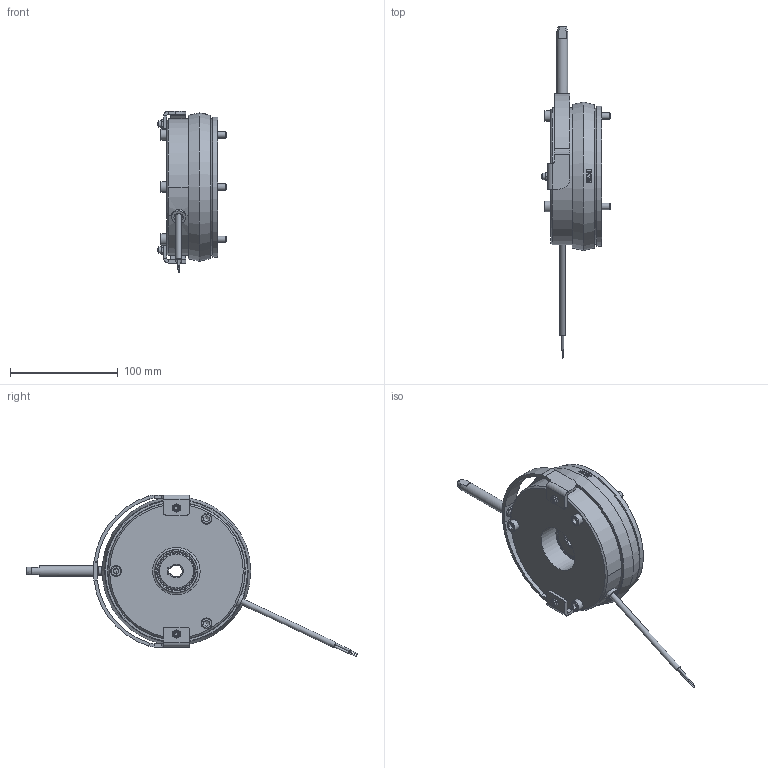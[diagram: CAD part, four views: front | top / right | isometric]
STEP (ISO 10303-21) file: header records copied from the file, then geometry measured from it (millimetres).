
FILE_DESCRIPTION(/* description */ (''),/* implementation_level */ '2;1');
FILE_NAME(/* name */ 'C:\SapWorkDir\Inventor\IP1\ConvertTempPath\5029487_IPT_000.ipt.stp',/* time_stamp */ '2021-04-21T08:01:32+02:00',/* author */ ('WOELK'),/* organization */ (''),/* preprocessor_version */ 'ST-DEVELOPER v17',/* originating_system */ 'Autodesk Inventor 2018',/* authorisation */ '');
FILE_SCHEMA (('AUTOMOTIVE_DESIGN { 1 0 10303 214 3 1 1 }'));
Products named in the file (1): 5029487
Bounding box: 63.15 x 307.93 x 150.18 mm (x, y, z)
Volume: 506984.5 mm3; surface area: 158474.2 mm2
Topology: 4 solids, 4 shells, 2010 faces, 5912 edges, 3812 vertices
Faces by surface type: cylinder 842, plane 454, bspline 344, torus 253, cone 117
Full cylindrical faces by diameter (mm): 1 x2, 1.85 x2, 3.621 x2, 4 x4, 4.917 x3, 5 x2, 5.3 x1, 5.5 x3, 5.9 x4, 6 x3, 6.15 x3, 6.4 x3, 6.6 x4, 8 x1, 8.917 x3, 10 x7, 10.4 x3, 12 x3, 13.2 x1, 38.3 x1, 44 x2, 45 x1, 65.7 x2, 95 x1, 127 x1, 130 x2
Entity records: 82546 total; most frequent: CARTESIAN_POINT 28998, ORIENTED_EDGE 11816, DIRECTION 9994, EDGE_CURVE 5908, AXIS2_PLACEMENT_3D 4063, VERTEX_POINT 3812, CIRCLE 2396, EDGE_LOOP 2096
